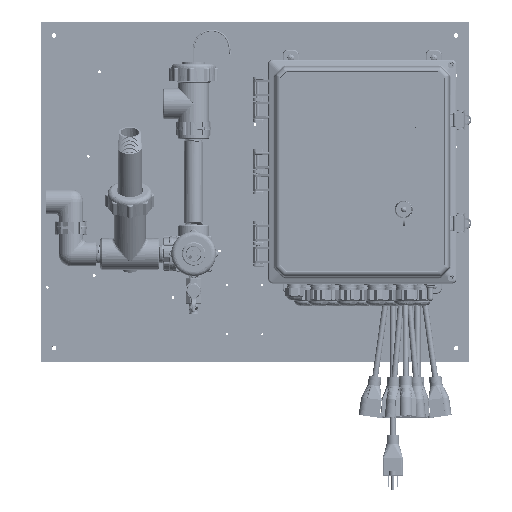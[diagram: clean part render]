
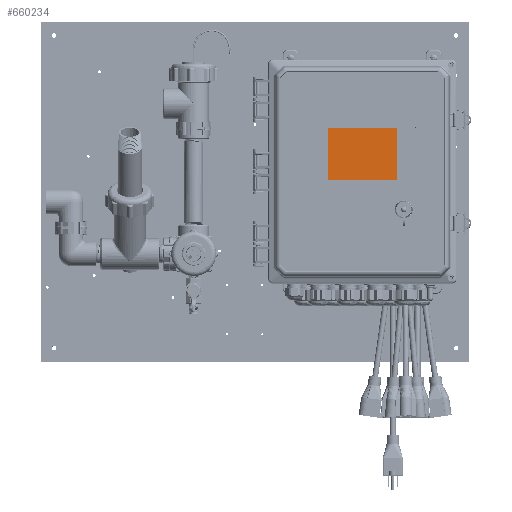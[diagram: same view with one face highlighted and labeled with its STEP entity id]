
A CAD part, top view. The second image highlights one B-rep face of the part: STEP entity #660234.
In plain terms, the highlighted planar face has unit normal (0, 0, 1) as drawn and (0, 0.819, -0.574) by its records, which use the part's own axes.
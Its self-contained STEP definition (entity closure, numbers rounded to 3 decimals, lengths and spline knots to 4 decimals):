
#13373 = CARTESIAN_POINT ( 'NONE',  ( -0.8381, 5.0654, 1.8349 ) ) ;
#19186 = VERTEX_POINT ( 'NONE', #33908 ) ;
#19307 = VERTEX_POINT ( 'NONE', #13373 ) ;
#25804 = LINE ( 'NONE', #52125, #465221 ) ;
#33908 = CARTESIAN_POINT ( 'NONE',  ( -3.752, 5.0654, 1.8349 ) ) ;
#38000 = DIRECTION ( 'NONE',  ( -1., 0., 0. ) ) ;
#49673 = CARTESIAN_POINT ( 'NONE',  ( -0.8381, 5.0654, 1.8349 ) ) ;
#52125 = CARTESIAN_POINT ( 'NONE',  ( -3.752, 5.0654, 1.8349 ) ) ;
#103317 = DIRECTION ( 'NONE',  ( 0., 0.819, -0.574 ) ) ;
#116363 = VECTOR ( 'NONE', #38000, 39.3701 ) ;
#130996 = DIRECTION ( 'NONE',  ( 1., 0., 0. ) ) ;
#160758 = CARTESIAN_POINT ( 'NONE',  ( -3.752, 5.0654, 1.8349 ) ) ;
#180821 = EDGE_LOOP ( 'NONE', ( #395370, #719695, #480679, #687455 ) ) ;
#191899 = VERTEX_POINT ( 'NONE', #717368 ) ;
#260816 = FACE_OUTER_BOUND ( 'NONE', #180821, .T. ) ;
#287650 = DIRECTION ( 'NONE',  ( 0., 0.574, 0.819 ) ) ;
#290120 = DIRECTION ( 'NONE',  ( 0., -0.574, -0.819 ) ) ;
#303456 = EDGE_CURVE ( 'NONE', #191899, #19307, #312726, .T. ) ;
#303483 = EDGE_CURVE ( 'NONE', #19186, #408820, #25804, .T. ) ;
#312726 = LINE ( 'NONE', #49673, #491838 ) ;
#395370 = ORIENTED_EDGE ( 'NONE', *, *, #303483, .T. ) ;
#408820 = VERTEX_POINT ( 'NONE', #580801 ) ;
#429814 = LINE ( 'NONE', #160758, #116363 ) ;
#465221 = VECTOR ( 'NONE', #287650, 39.3701 ) ;
#480679 = ORIENTED_EDGE ( 'NONE', *, *, #303456, .T. ) ;
#491595 = VECTOR ( 'NONE', #130996, 39.3701 ) ;
#491838 = VECTOR ( 'NONE', #290120, 39.3701 ) ;
#557500 = EDGE_CURVE ( 'NONE', #408820, #191899, #644101, .T. ) ;
#580801 = CARTESIAN_POINT ( 'NONE',  ( -3.752, 7.2791, 4.9955 ) ) ;
#590331 = EDGE_CURVE ( 'NONE', #19307, #19186, #429814, .T. ) ;
#614653 = PLANE ( 'NONE',  #635821 ) ;
#617119 = DIRECTION ( 'NONE',  ( 0., 0.574, 0.819 ) ) ;
#635821 = AXIS2_PLACEMENT_3D ( 'NONE', #722568, #103317, #617119 ) ;
#639850 = CARTESIAN_POINT ( 'NONE',  ( -3.752, 7.2791, 4.9955 ) ) ;
#644101 = LINE ( 'NONE', #639850, #491595 ) ;
#660234 = ADVANCED_FACE ( 'NONE', ( #260816 ), #614653, .T. ) ;
#687455 = ORIENTED_EDGE ( 'NONE', *, *, #590331, .T. ) ;
#717368 = CARTESIAN_POINT ( 'NONE',  ( -0.8381, 7.2791, 4.9955 ) ) ;
#719695 = ORIENTED_EDGE ( 'NONE', *, *, #557500, .T. ) ;
#722568 = CARTESIAN_POINT ( 'NONE',  ( 0., 2.5361, -1.7763 ) ) ;
